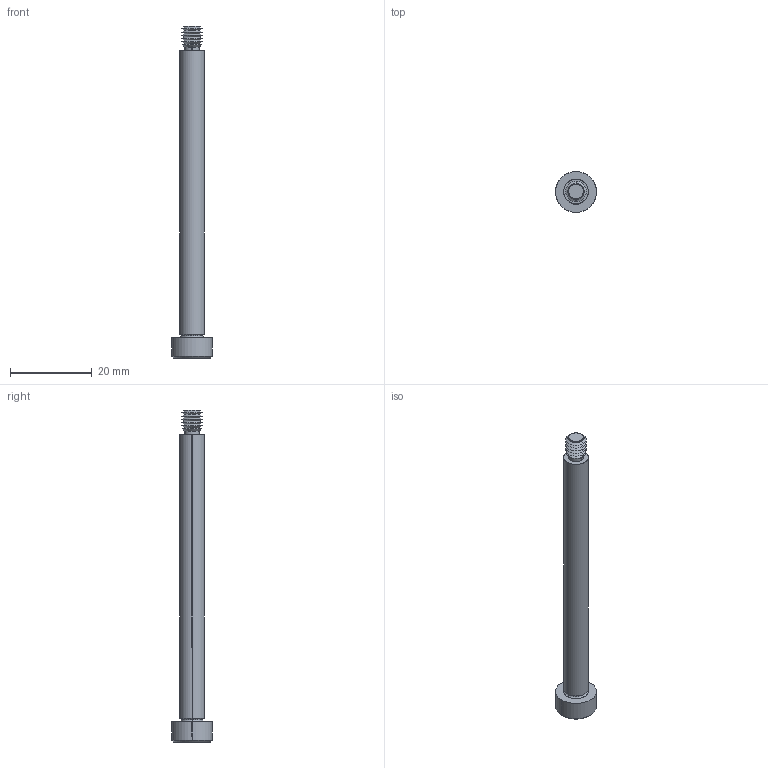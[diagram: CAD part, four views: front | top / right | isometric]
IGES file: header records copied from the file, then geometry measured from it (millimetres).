
Start section: SolidWorks IGES file using analytic representation for surfaces
Global section: file name: C:\Users\IanO\Documents\Temp Folder\GENERAL\SCREW REVISION\P0130_v2\P0130.T5_v2_20220106_IGES\P0130.060-070-T5.igs; native system: SolidWorks 2019; preprocessor: SolidWorks 2019; author: IanO; date: 220106.222820; units: millimetre
Bounding box: 10 x 10 x 81 mm (x, y, z)
Surface area: 1807 mm2 (no closed solid volume)
Topology: 0 solids, 0 shells, 64 faces, 504 edges, 502 vertices
Faces by surface type: revolution 44, bspline 20
